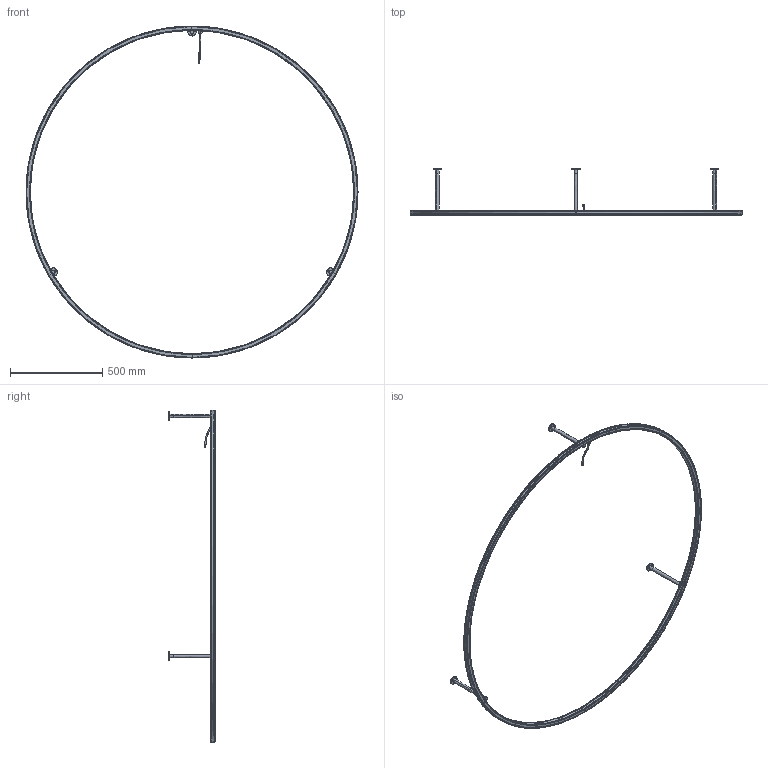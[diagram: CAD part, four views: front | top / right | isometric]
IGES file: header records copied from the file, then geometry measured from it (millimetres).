
Start section: SolidWorks IGES file using analytic representation for surfaces
Global section: file name: \\STORAGE\Tecnico Condiviso\1 FASCICOLI TECNICI\LIGHTECTURE\LIG008-U LIGHT\CE\PLULA180LED\PLUL2180LED-PER 3D.IGS; native system: SolidWorks 2024; preprocessor: SolidWorks 2024; author: tecnico3; date: 240528.190551; units: millimetre
Bounding box: 1800 x 251.5 x 1800 mm (x, y, z)
Surface area: 1151663.5 mm2 (no closed solid volume)
Topology: 0 solids, 0 shells, 493 faces, 6948 edges, 6942 vertices
Faces by surface type: revolution 273, bspline 220
